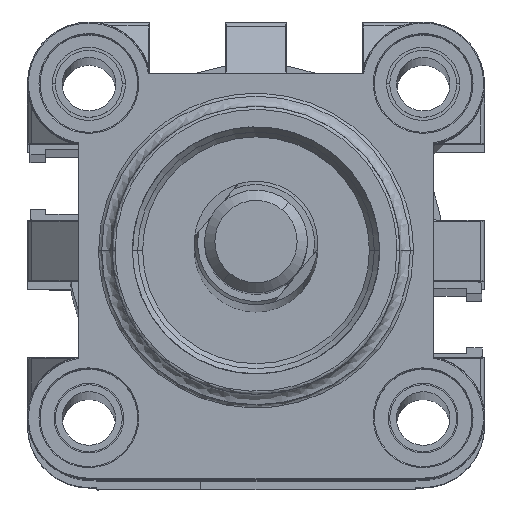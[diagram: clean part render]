
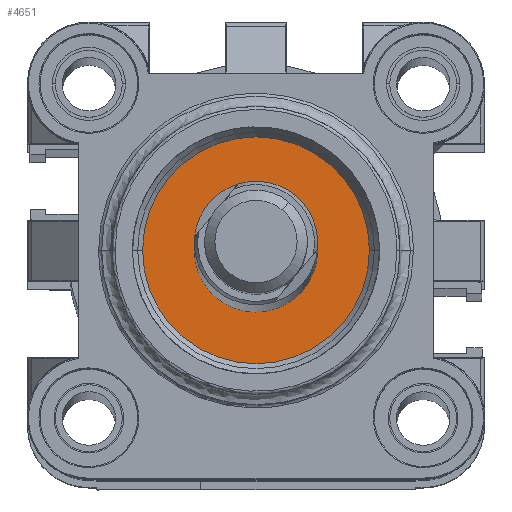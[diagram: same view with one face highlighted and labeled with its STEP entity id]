
A CAD part, top view. The second image highlights one B-rep face of the part: STEP entity #4651.
In plain terms, the highlighted planar face has unit normal (0, 0, 1).
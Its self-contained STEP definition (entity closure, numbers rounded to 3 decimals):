
#204 = EDGE_CURVE ( 'NONE', #19131, #3724, #20000, .T. ) ;
#889 = DIRECTION ( 'NONE',  ( 1., 0., 0. ) ) ;
#2415 = FACE_OUTER_BOUND ( 'NONE', #8720, .T. ) ;
#2596 = AXIS2_PLACEMENT_3D ( 'NONE', #11527, #5040, #8320 ) ;
#2945 = CARTESIAN_POINT ( 'NONE',  ( 23.25, -17.25, 40.8 ) ) ;
#3724 = VERTEX_POINT ( 'NONE', #18386 ) ;
#4651 = ADVANCED_FACE ( 'NONE', ( #2415, #19435 ), #8255, .T. ) ;
#4659 = ORIENTED_EDGE ( 'NONE', *, *, #6492, .F. ) ;
#5040 = DIRECTION ( 'NONE',  ( 0., 0., 1. ) ) ;
#5229 = CARTESIAN_POINT ( 'NONE',  ( 17.25, -17.25, 40.8 ) ) ;
#5254 = DIRECTION ( 'NONE',  ( 0., 0., 1. ) ) ;
#5294 = DIRECTION ( 'NONE',  ( 1., 0., 0. ) ) ;
#5381 = CIRCLE ( 'NONE', #18745, 11.028 ) ;
#6492 = EDGE_CURVE ( 'NONE', #20113, #18780, #19115, .T. ) ;
#6914 = ORIENTED_EDGE ( 'NONE', *, *, #16845, .F. ) ;
#7606 = AXIS2_PLACEMENT_3D ( 'NONE', #20139, #10480, #889 ) ;
#8240 = DIRECTION ( 'NONE',  ( 0., 0., 1. ) ) ;
#8255 = PLANE ( 'NONE',  #2596 ) ;
#8320 = DIRECTION ( 'NONE',  ( 1., 0., 0. ) ) ;
#8720 = EDGE_LOOP ( 'NONE', ( #9691, #14519 ) ) ;
#9547 = CARTESIAN_POINT ( 'NONE',  ( 6.222, -17.25, 40.8 ) ) ;
#9691 = ORIENTED_EDGE ( 'NONE', *, *, #16684, .T. ) ;
#10480 = DIRECTION ( 'NONE',  ( 0., 0., 1. ) ) ;
#11527 = CARTESIAN_POINT ( 'NONE',  ( 17.25, -17.25, 40.8 ) ) ;
#11920 = CARTESIAN_POINT ( 'NONE',  ( 17.25, -17.25, 40.8 ) ) ;
#12131 = AXIS2_PLACEMENT_3D ( 'NONE', #11920, #12293, #12356 ) ;
#12275 = CARTESIAN_POINT ( 'NONE',  ( 11.25, -17.25, 40.8 ) ) ;
#12293 = DIRECTION ( 'NONE',  ( 0., 0., 1. ) ) ;
#12356 = DIRECTION ( 'NONE',  ( 1., 0., 0. ) ) ;
#12418 = CIRCLE ( 'NONE', #7606, 6. ) ;
#12756 = EDGE_LOOP ( 'NONE', ( #4659, #6914 ) ) ;
#14519 = ORIENTED_EDGE ( 'NONE', *, *, #204, .T. ) ;
#15349 = AXIS2_PLACEMENT_3D ( 'NONE', #5229, #5254, #5294 ) ;
#16684 = EDGE_CURVE ( 'NONE', #3724, #19131, #5381, .T. ) ;
#16845 = EDGE_CURVE ( 'NONE', #18780, #20113, #12418, .T. ) ;
#17817 = CARTESIAN_POINT ( 'NONE',  ( 17.25, -17.25, 40.8 ) ) ;
#18386 = CARTESIAN_POINT ( 'NONE',  ( 28.278, -17.25, 40.8 ) ) ;
#18745 = AXIS2_PLACEMENT_3D ( 'NONE', #17817, #8240, #19499 ) ;
#18780 = VERTEX_POINT ( 'NONE', #12275 ) ;
#19115 = CIRCLE ( 'NONE', #15349, 6. ) ;
#19131 = VERTEX_POINT ( 'NONE', #9547 ) ;
#19435 = FACE_BOUND ( 'NONE', #12756, .T. ) ;
#19499 = DIRECTION ( 'NONE',  ( 1., 0., 0. ) ) ;
#20000 = CIRCLE ( 'NONE', #12131, 11.028 ) ;
#20113 = VERTEX_POINT ( 'NONE', #2945 ) ;
#20139 = CARTESIAN_POINT ( 'NONE',  ( 17.25, -17.25, 40.8 ) ) ;
